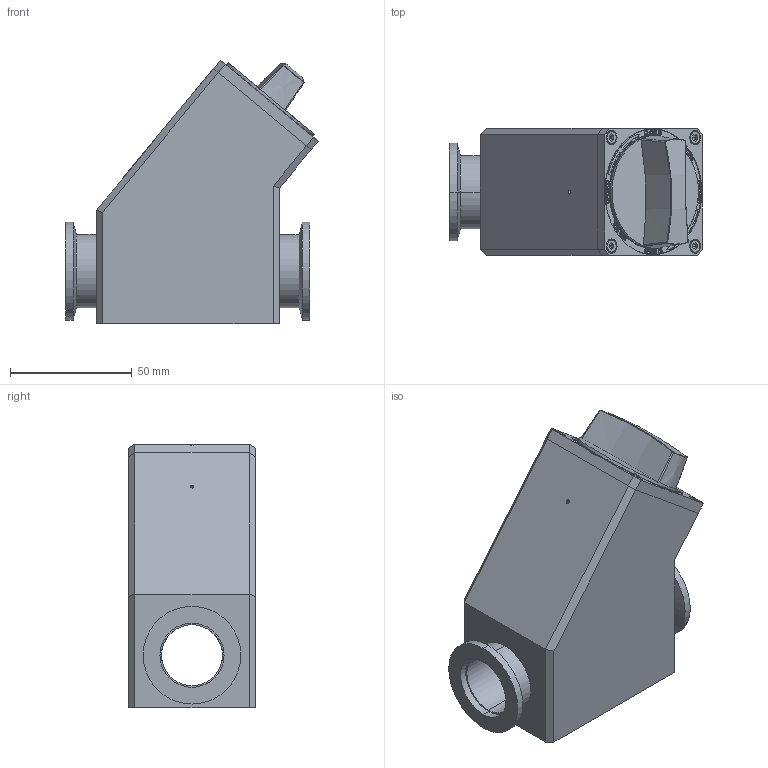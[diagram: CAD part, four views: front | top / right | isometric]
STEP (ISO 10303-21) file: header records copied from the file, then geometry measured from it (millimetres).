
FILE_DESCRIPTION (( 'STEP AP203' ), '1' );
FILE_NAME ('KF25忒雄眻籵概.STEP', '2024-03-01T08:20:08', ( '' ), ( '' ), 'SwSTEP 2.0', 'SolidWorks 2023', '' );
FILE_SCHEMA (( 'CONFIG_CONTROL_DESIGN' ));
Length unit declared in the file: millimetre
Products named in the file (1): KF25手动直通阀
Bounding box: 103.45 x 52 x 107.93 mm (x, y, z)
Surface area: 41502.7 mm2 (no closed solid volume)
Topology: 0 solids, 28 shells, 300 faces, 1547 edges, 1235 vertices
Faces by surface type: plane 181, cylinder 53, bspline 40, cone 16, torus 10
Entity records: 21253 total; most frequent: CARTESIAN_POINT 10297, ORIENTED_EDGE 2022, DIRECTION 1800, EDGE_CURVE 1539, VERTEX_POINT 1235, VECTOR 936, LINE 936, AXIS2_PLACEMENT_3D 432
